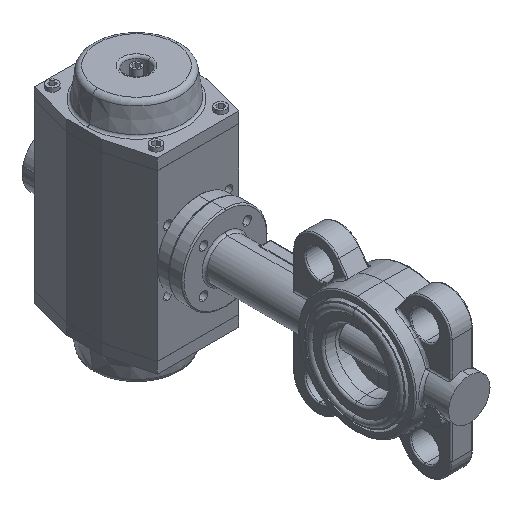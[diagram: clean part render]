
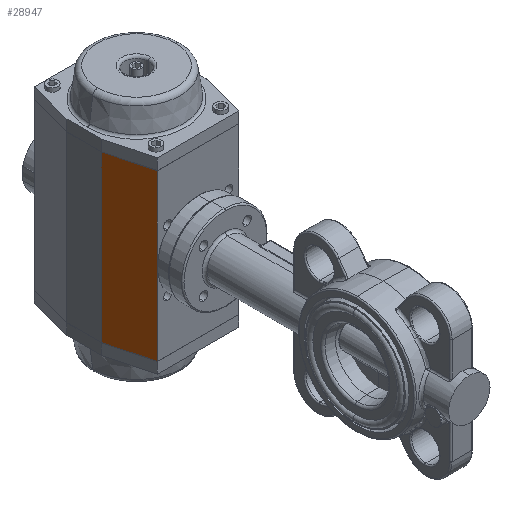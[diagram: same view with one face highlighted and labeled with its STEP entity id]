
A CAD part, isometric view. The second image highlights one B-rep face of the part: STEP entity #28947.
In plain terms, the highlighted planar face has unit normal (-0.967, -0.255, 0).
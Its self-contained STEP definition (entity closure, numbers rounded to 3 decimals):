
#775 = EDGE_CURVE ( 'NONE', #25676, #10653, #18242, .T. ) ;
#1029 = DIRECTION ( 'NONE',  ( 0., 0., 1. ) ) ;
#1213 = VECTOR ( 'NONE', #5181, 1000. ) ;
#2032 = ORIENTED_EDGE ( 'NONE', *, *, #23023, .F. ) ;
#4187 = CARTESIAN_POINT ( 'NONE',  ( -33., -50., -67. ) ) ;
#5181 = DIRECTION ( 'NONE',  ( -0.255, 0.967, 0. ) ) ;
#6653 = DIRECTION ( 'NONE',  ( 0., 0., 1. ) ) ;
#6994 = LINE ( 'NONE', #39174, #38091 ) ;
#7090 = ORIENTED_EDGE ( 'NONE', *, *, #35145, .T. ) ;
#7372 = CARTESIAN_POINT ( 'NONE',  ( -33., -50., -67. ) ) ;
#10243 = CARTESIAN_POINT ( 'NONE',  ( -42.5, -14., -67. ) ) ;
#10653 = VERTEX_POINT ( 'NONE', #26115 ) ;
#12037 = ORIENTED_EDGE ( 'NONE', *, *, #34595, .F. ) ;
#12332 = CARTESIAN_POINT ( 'NONE',  ( -33., -50., -67. ) ) ;
#15440 = PLANE ( 'NONE',  #17329 ) ;
#15583 = DIRECTION ( 'NONE',  ( -0.255, 0.967, 0. ) ) ;
#16664 = VERTEX_POINT ( 'NONE', #4187 ) ;
#16725 = LINE ( 'NONE', #29060, #33756 ) ;
#17329 = AXIS2_PLACEMENT_3D ( 'NONE', #12332, #34758, #15583 ) ;
#18242 = LINE ( 'NONE', #27612, #1213 ) ;
#20416 = EDGE_LOOP ( 'NONE', ( #7090, #25094, #2032, #12037 ) ) ;
#23023 = EDGE_CURVE ( 'NONE', #36749, #10653, #6994, .T. ) ;
#23762 = LINE ( 'NONE', #7372, #32332 ) ;
#25094 = ORIENTED_EDGE ( 'NONE', *, *, #775, .T. ) ;
#25676 = VERTEX_POINT ( 'NONE', #36082 ) ;
#26115 = CARTESIAN_POINT ( 'NONE',  ( -42.5, -14., 67. ) ) ;
#26569 = DIRECTION ( 'NONE',  ( -0.255, 0.967, 0. ) ) ;
#27612 = CARTESIAN_POINT ( 'NONE',  ( -33., -50., 67. ) ) ;
#28947 = ADVANCED_FACE ( 'NONE', ( #39347 ), #15440, .F. ) ;
#29060 = CARTESIAN_POINT ( 'NONE',  ( -33., -50., -67. ) ) ;
#32332 = VECTOR ( 'NONE', #26569, 1000. ) ;
#33756 = VECTOR ( 'NONE', #6653, 1000. ) ;
#34595 = EDGE_CURVE ( 'NONE', #16664, #36749, #23762, .T. ) ;
#34758 = DIRECTION ( 'NONE',  ( 0.967, 0.255, 0. ) ) ;
#35145 = EDGE_CURVE ( 'NONE', #16664, #25676, #16725, .T. ) ;
#36082 = CARTESIAN_POINT ( 'NONE',  ( -33., -50., 67. ) ) ;
#36749 = VERTEX_POINT ( 'NONE', #10243 ) ;
#38091 = VECTOR ( 'NONE', #1029, 1000. ) ;
#39174 = CARTESIAN_POINT ( 'NONE',  ( -42.5, -14., -67. ) ) ;
#39347 = FACE_OUTER_BOUND ( 'NONE', #20416, .T. ) ;
